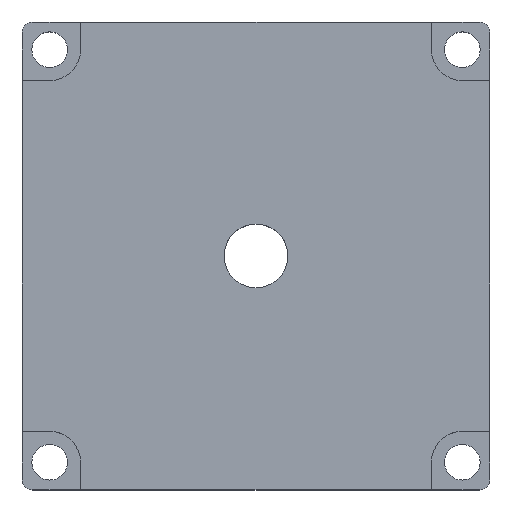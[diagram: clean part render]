
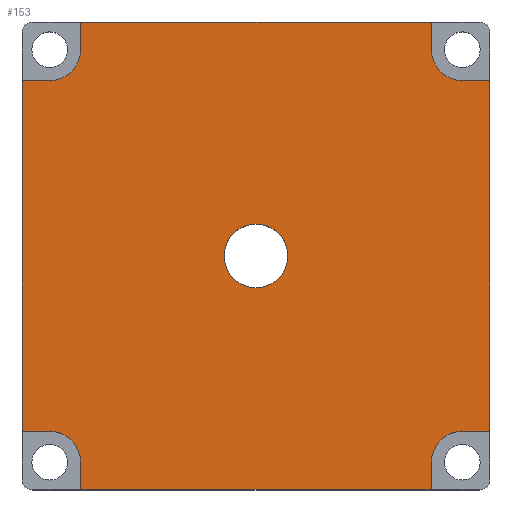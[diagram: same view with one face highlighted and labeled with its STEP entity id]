
A CAD part, top view. The second image highlights one B-rep face of the part: STEP entity #153.
In plain terms, the highlighted planar face has unit normal (0, 0, 1).
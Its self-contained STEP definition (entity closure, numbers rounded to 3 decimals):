
#4 = CARTESIAN_POINT ( 'NONE',  ( 33., 44., 7. ) ) ;
#8 = DIRECTION ( 'NONE',  ( 0., -1., 0. ) ) ;
#11 = ORIENTED_EDGE ( 'NONE', *, *, #900, .T. ) ;
#17 = VERTEX_POINT ( 'NONE', #864 ) ;
#24 = EDGE_CURVE ( 'NONE', #666, #1089, #231, .T. ) ;
#30 = LINE ( 'NONE', #681, #1139 ) ;
#33 = VERTEX_POINT ( 'NONE', #99 ) ;
#34 = LINE ( 'NONE', #679, #905 ) ;
#36 = CIRCLE ( 'NONE', #630, 5.786 ) ;
#41 = CIRCLE ( 'NONE', #821, 6. ) ;
#58 = CIRCLE ( 'NONE', #696, 5.786 ) ;
#64 = CARTESIAN_POINT ( 'NONE',  ( -5.786, 82.786, 7. ) ) ;
#71 = EDGE_CURVE ( 'NONE', #33, #889, #867, .T. ) ;
#74 = DIRECTION ( 'NONE',  ( -1., 0., 0. ) ) ;
#80 = EDGE_CURVE ( 'NONE', #297, #271, #36, .T. ) ;
#95 = DIRECTION ( 'NONE',  ( 0., 0., -1. ) ) ;
#99 = CARTESIAN_POINT ( 'NONE',  ( -11., 11., 7. ) ) ;
#128 = ORIENTED_EDGE ( 'NONE', *, *, #588, .T. ) ;
#140 = EDGE_CURVE ( 'NONE', #432, #402, #834, .T. ) ;
#153 = ADVANCED_FACE ( 'NONE', ( #207, #245 ), #1130, .T. ) ;
#176 = CARTESIAN_POINT ( 'NONE',  ( 0., 2., 7. ) ) ;
#181 = VECTOR ( 'NONE', #416, 1000. ) ;
#193 = ORIENTED_EDGE ( 'NONE', *, *, #24, .T. ) ;
#195 = DIRECTION ( 'NONE',  ( 0., -1., 0. ) ) ;
#200 = VERTEX_POINT ( 'NONE', #1009 ) ;
#207 = FACE_BOUND ( 'NONE', #1080, .T. ) ;
#219 = CARTESIAN_POINT ( 'NONE',  ( 71.786, 5.214, 7. ) ) ;
#224 = ORIENTED_EDGE ( 'NONE', *, *, #276, .F. ) ;
#229 = ORIENTED_EDGE ( 'NONE', *, *, #506, .T. ) ;
#231 = LINE ( 'NONE', #858, #682 ) ;
#234 = CARTESIAN_POINT ( 'NONE',  ( -9., 88., 7. ) ) ;
#237 = ORIENTED_EDGE ( 'NONE', *, *, #1234, .F. ) ;
#245 = FACE_OUTER_BOUND ( 'NONE', #1096, .T. ) ;
#251 = DIRECTION ( 'NONE',  ( -1., 0., 0. ) ) ;
#252 = CARTESIAN_POINT ( 'NONE',  ( 66., 82.786, 7. ) ) ;
#255 = AXIS2_PLACEMENT_3D ( 'NONE', #219, #680, #688 ) ;
#258 = CARTESIAN_POINT ( 'NONE',  ( 66., 2., 7. ) ) ;
#263 = CARTESIAN_POINT ( 'NONE',  ( -5.786, 5.214, 7. ) ) ;
#271 = VERTEX_POINT ( 'NONE', #252 ) ;
#273 = CARTESIAN_POINT ( 'NONE',  ( 27., 44., 7. ) ) ;
#276 = EDGE_CURVE ( 'NONE', #33, #402, #1191, .T. ) ;
#280 = EDGE_CURVE ( 'NONE', #345, #666, #604, .T. ) ;
#285 = VECTOR ( 'NONE', #1056, 1000. ) ;
#286 = CARTESIAN_POINT ( 'NONE',  ( -5.786, 11., 7. ) ) ;
#289 = ORIENTED_EDGE ( 'NONE', *, *, #140, .T. ) ;
#292 = AXIS2_PLACEMENT_3D ( 'NONE', #263, #446, #251 ) ;
#297 = VERTEX_POINT ( 'NONE', #780 ) ;
#302 = ORIENTED_EDGE ( 'NONE', *, *, #436, .T. ) ;
#307 = LINE ( 'NONE', #234, #662 ) ;
#312 = CARTESIAN_POINT ( 'NONE',  ( 66., 5.214, 7. ) ) ;
#320 = VERTEX_POINT ( 'NONE', #872 ) ;
#336 = ORIENTED_EDGE ( 'NONE', *, *, #280, .T. ) ;
#340 = VERTEX_POINT ( 'NONE', #590 ) ;
#345 = VERTEX_POINT ( 'NONE', #312 ) ;
#349 = CIRCLE ( 'NONE', #929, 6. ) ;
#372 = CARTESIAN_POINT ( 'NONE',  ( 66., 2., 7. ) ) ;
#402 = VERTEX_POINT ( 'NONE', #579 ) ;
#410 = VECTOR ( 'NONE', #195, 1000. ) ;
#416 = DIRECTION ( 'NONE',  ( -1., 0., 0. ) ) ;
#418 = VECTOR ( 'NONE', #848, 1000. ) ;
#432 = VERTEX_POINT ( 'NONE', #697 ) ;
#436 = EDGE_CURVE ( 'NONE', #469, #297, #675, .T. ) ;
#446 = DIRECTION ( 'NONE',  ( 0., 0., -1. ) ) ;
#454 = ORIENTED_EDGE ( 'NONE', *, *, #667, .T. ) ;
#457 = VECTOR ( 'NONE', #1232, 1000. ) ;
#460 = CARTESIAN_POINT ( 'NONE',  ( 77., 86., 7. ) ) ;
#465 = DIRECTION ( 'NONE',  ( 0., 0., -1. ) ) ;
#469 = VERTEX_POINT ( 'NONE', #1026 ) ;
#486 = LINE ( 'NONE', #176, #410 ) ;
#504 = VERTEX_POINT ( 'NONE', #273 ) ;
#506 = EDGE_CURVE ( 'NONE', #17, #345, #729, .T. ) ;
#522 = DIRECTION ( 'NONE',  ( 0., 0., -1. ) ) ;
#537 = CARTESIAN_POINT ( 'NONE',  ( -11., 2., 7. ) ) ;
#544 = CARTESIAN_POINT ( 'NONE',  ( -11., 77., 7. ) ) ;
#565 = DIRECTION ( 'NONE',  ( -1., 0., 0. ) ) ;
#569 = ORIENTED_EDGE ( 'NONE', *, *, #80, .T. ) ;
#579 = CARTESIAN_POINT ( 'NONE',  ( -11., 77., 7. ) ) ;
#588 = EDGE_CURVE ( 'NONE', #271, #320, #892, .T. ) ;
#590 = CARTESIAN_POINT ( 'NONE',  ( 0., 82.786, 7. ) ) ;
#595 = EDGE_CURVE ( 'NONE', #902, #340, #486, .T. ) ;
#601 = CIRCLE ( 'NONE', #292, 5.786 ) ;
#604 = CIRCLE ( 'NONE', #255, 5.786 ) ;
#613 = VECTOR ( 'NONE', #914, 1000. ) ;
#626 = ORIENTED_EDGE ( 'NONE', *, *, #1245, .T. ) ;
#630 = AXIS2_PLACEMENT_3D ( 'NONE', #738, #1016, #636 ) ;
#634 = CARTESIAN_POINT ( 'NONE',  ( -11., 2., 7. ) ) ;
#636 = DIRECTION ( 'NONE',  ( -1., 0., 0. ) ) ;
#662 = VECTOR ( 'NONE', #822, 1000. ) ;
#666 = VERTEX_POINT ( 'NONE', #947 ) ;
#667 = EDGE_CURVE ( 'NONE', #504, #1181, #349, .T. ) ;
#674 = DIRECTION ( 'NONE',  ( -1., 0., 0. ) ) ;
#675 = LINE ( 'NONE', #981, #181 ) ;
#679 = CARTESIAN_POINT ( 'NONE',  ( 75., 0., 7. ) ) ;
#680 = DIRECTION ( 'NONE',  ( 0., 0., -1. ) ) ;
#681 = CARTESIAN_POINT ( 'NONE',  ( 0., 2., 7. ) ) ;
#682 = VECTOR ( 'NONE', #960, 1000. ) ;
#688 = DIRECTION ( 'NONE',  ( -1., 0., 0. ) ) ;
#696 = AXIS2_PLACEMENT_3D ( 'NONE', #64, #522, #990 ) ;
#697 = CARTESIAN_POINT ( 'NONE',  ( -5.786, 77., 7. ) ) ;
#700 = ORIENTED_EDGE ( 'NONE', *, *, #847, .T. ) ;
#713 = VECTOR ( 'NONE', #1038, 1000. ) ;
#729 = LINE ( 'NONE', #372, #1178 ) ;
#738 = CARTESIAN_POINT ( 'NONE',  ( 71.786, 82.786, 7. ) ) ;
#780 = CARTESIAN_POINT ( 'NONE',  ( 71.786, 77., 7. ) ) ;
#786 = EDGE_CURVE ( 'NONE', #469, #1089, #932, .T. ) ;
#820 = CARTESIAN_POINT ( 'NONE',  ( -11., 11., 7. ) ) ;
#821 = AXIS2_PLACEMENT_3D ( 'NONE', #4, #95, #565 ) ;
#822 = DIRECTION ( 'NONE',  ( 1., 0., 0. ) ) ;
#824 = AXIS2_PLACEMENT_3D ( 'NONE', #634, #921, #1000 ) ;
#830 = ORIENTED_EDGE ( 'NONE', *, *, #595, .T. ) ;
#834 = LINE ( 'NONE', #544, #457 ) ;
#847 = EDGE_CURVE ( 'NONE', #200, #853, #30, .T. ) ;
#848 = DIRECTION ( 'NONE',  ( 0., 1., 0. ) ) ;
#853 = VERTEX_POINT ( 'NONE', #1053 ) ;
#858 = CARTESIAN_POINT ( 'NONE',  ( -11., 11., 7. ) ) ;
#864 = CARTESIAN_POINT ( 'NONE',  ( 66., 0., 7. ) ) ;
#867 = LINE ( 'NONE', #820, #613 ) ;
#872 = CARTESIAN_POINT ( 'NONE',  ( 66., 88., 7. ) ) ;
#889 = VERTEX_POINT ( 'NONE', #286 ) ;
#892 = LINE ( 'NONE', #258, #285 ) ;
#898 = ORIENTED_EDGE ( 'NONE', *, *, #1198, .T. ) ;
#900 = EDGE_CURVE ( 'NONE', #1181, #504, #41, .T. ) ;
#902 = VERTEX_POINT ( 'NONE', #1148 ) ;
#905 = VECTOR ( 'NONE', #674, 1000. ) ;
#914 = DIRECTION ( 'NONE',  ( 1., 0., 0. ) ) ;
#921 = DIRECTION ( 'NONE',  ( 0., 0., 1. ) ) ;
#929 = AXIS2_PLACEMENT_3D ( 'NONE', #1227, #465, #74 ) ;
#932 = LINE ( 'NONE', #460, #713 ) ;
#947 = CARTESIAN_POINT ( 'NONE',  ( 71.786, 11., 7. ) ) ;
#950 = CARTESIAN_POINT ( 'NONE',  ( 77., 11., 7. ) ) ;
#960 = DIRECTION ( 'NONE',  ( 1., 0., 0. ) ) ;
#972 = ORIENTED_EDGE ( 'NONE', *, *, #786, .F. ) ;
#981 = CARTESIAN_POINT ( 'NONE',  ( -11., 77., 7. ) ) ;
#990 = DIRECTION ( 'NONE',  ( -1., 0., 0. ) ) ;
#1000 = DIRECTION ( 'NONE',  ( 1., 0., 0. ) ) ;
#1001 = ORIENTED_EDGE ( 'NONE', *, *, #1136, .F. ) ;
#1009 = CARTESIAN_POINT ( 'NONE',  ( 0., 5.214, 7. ) ) ;
#1016 = DIRECTION ( 'NONE',  ( 0., 0., -1. ) ) ;
#1026 = CARTESIAN_POINT ( 'NONE',  ( 77., 77., 7. ) ) ;
#1038 = DIRECTION ( 'NONE',  ( 0., -1., 0. ) ) ;
#1053 = CARTESIAN_POINT ( 'NONE',  ( 0., 0., 7. ) ) ;
#1056 = DIRECTION ( 'NONE',  ( 0., 1., 0. ) ) ;
#1080 = EDGE_LOOP ( 'NONE', ( #454, #11 ) ) ;
#1089 = VERTEX_POINT ( 'NONE', #950 ) ;
#1096 = EDGE_LOOP ( 'NONE', ( #700, #1001, #229, #336, #193, #972, #302, #569, #128, #237, #830, #898, #289, #224, #1162, #626 ) ) ;
#1130 = PLANE ( 'NONE',  #824 ) ;
#1136 = EDGE_CURVE ( 'NONE', #17, #853, #34, .T. ) ;
#1138 = DIRECTION ( 'NONE',  ( 0., 1., 0. ) ) ;
#1139 = VECTOR ( 'NONE', #8, 1000. ) ;
#1148 = CARTESIAN_POINT ( 'NONE',  ( 0., 88., 7. ) ) ;
#1162 = ORIENTED_EDGE ( 'NONE', *, *, #71, .T. ) ;
#1166 = CARTESIAN_POINT ( 'NONE',  ( 39., 44., 7. ) ) ;
#1178 = VECTOR ( 'NONE', #1138, 1000. ) ;
#1181 = VERTEX_POINT ( 'NONE', #1166 ) ;
#1191 = LINE ( 'NONE', #537, #418 ) ;
#1198 = EDGE_CURVE ( 'NONE', #340, #432, #58, .T. ) ;
#1227 = CARTESIAN_POINT ( 'NONE',  ( 33., 44., 7. ) ) ;
#1232 = DIRECTION ( 'NONE',  ( -1., 0., 0. ) ) ;
#1234 = EDGE_CURVE ( 'NONE', #902, #320, #307, .T. ) ;
#1245 = EDGE_CURVE ( 'NONE', #889, #200, #601, .T. ) ;
